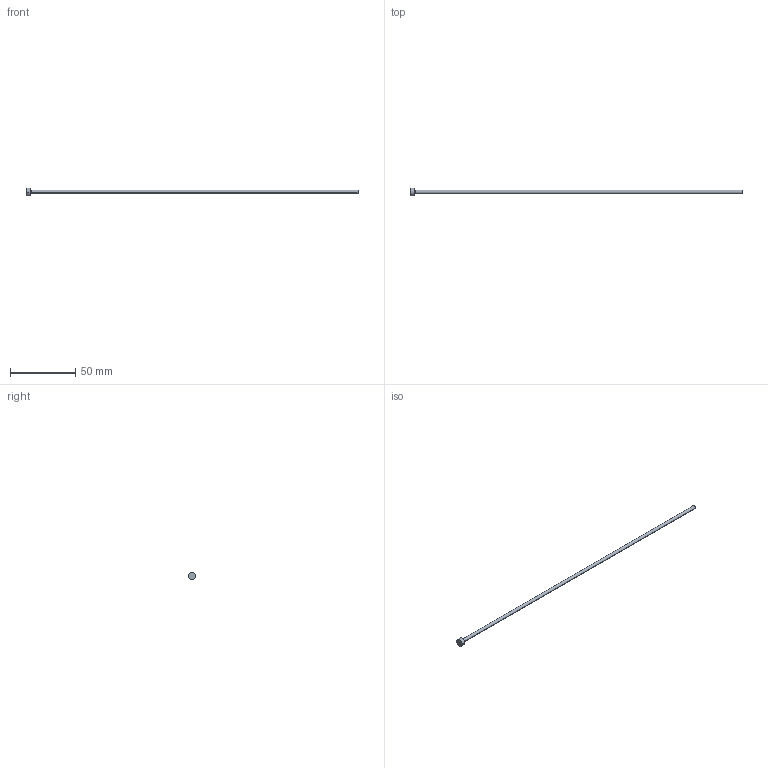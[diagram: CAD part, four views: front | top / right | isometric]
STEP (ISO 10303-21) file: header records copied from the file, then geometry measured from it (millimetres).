
FILE_DESCRIPTION (( 'STEP AP214' ), '1' );
FILE_NAME ('P8-10.STEP', '2020-03-11T17:16:17', ( '' ), ( '' ), 'SwSTEP 2.0', 'SolidWorks 2018', '' );
FILE_SCHEMA (( 'AUTOMOTIVE_DESIGN' ));
Length unit declared in the file: inch
Products named in the file (1): P8-10
Bounding box: 254 x 5.95 x 5.95 mm (x, y, z)
Volume: 1601.5 mm3; surface area: 2293.3 mm2
Topology: 1 solids, 1 shells, 13 faces, 24 edges, 14 vertices
Faces by surface type: cone 4, cylinder 4, plane 3, torus 2
Entity records: 366 total; most frequent: DIRECTION 68, CARTESIAN_POINT 52, ORIENTED_EDGE 48, AXIS2_PLACEMENT_3D 30, EDGE_CURVE 24, CIRCLE 16, EDGE_LOOP 14, VERTEX_POINT 14
